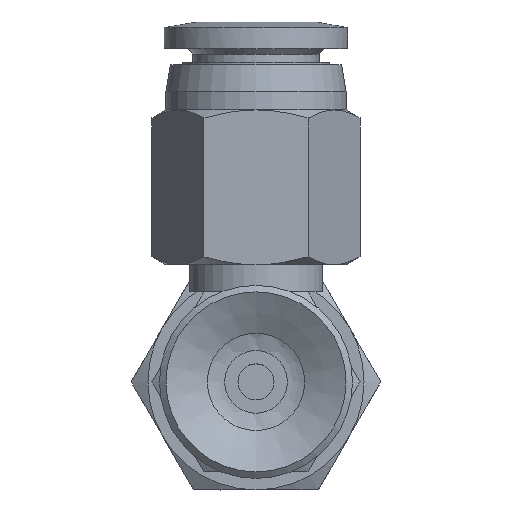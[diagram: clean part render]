
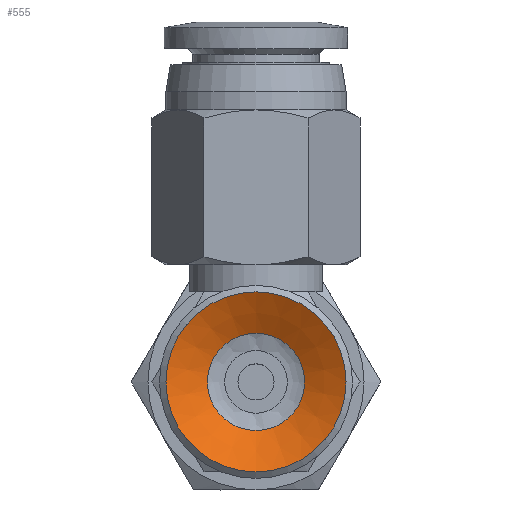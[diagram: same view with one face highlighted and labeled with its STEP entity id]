
A CAD part, front view. The second image highlights one B-rep face of the part: STEP entity #555.
In plain terms, the highlighted conical face has half-angle 61.39 degrees and reference radius 2.25 mm.
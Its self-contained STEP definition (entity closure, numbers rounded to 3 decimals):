
#555=ADVANCED_FACE('',(#863,#864),#865,.F.);
#863=FACE_BOUND('',#1256,.T.);
#864=FACE_OUTER_BOUND('',#1257,.T.);
#865=CONICAL_SURFACE('',#1258,2.25,1.071);
#1256=EDGE_LOOP('',(#2289));
#1257=EDGE_LOOP('',(#2290));
#1258=AXIS2_PLACEMENT_3D('',#2291,#2292,#2293);
#2289=ORIENTED_EDGE('',*,*,#2801,.T.);
#2290=ORIENTED_EDGE('',*,*,#2794,.T.);
#2291=CARTESIAN_POINT('',(0.0,1.5,0.0));
#2292=DIRECTION('',(-0.0,-1.0,0.));
#2293=DIRECTION('',(0.0,0.,-1.0));
#2794=EDGE_CURVE('',#3176,#3176,#3177,.T.);
#2801=EDGE_CURVE('',#3190,#3190,#3191,.T.);
#3176=VERTEX_POINT('',#4014);
#3177=CIRCLE('',#4015,5.);
#3190=VERTEX_POINT('',#4028);
#3191=CIRCLE('',#4029,2.698);
#4014=CARTESIAN_POINT('',(0.0,0.,-5.));
#4015=AXIS2_PLACEMENT_3D('',#4759,#4760,#4761);
#4028=CARTESIAN_POINT('',(0.0,1.256,-2.698));
#4029=AXIS2_PLACEMENT_3D('',#4780,#4781,#4782);
#4759=CARTESIAN_POINT('',(0.0,0.0,0.0));
#4760=DIRECTION('',(0.0,-1.0,0.));
#4761=DIRECTION('',(0.0,0.,-1.0));
#4780=CARTESIAN_POINT('',(0.0,1.256,0.0));
#4781=DIRECTION('',(0.0,1.0,0.));
#4782=DIRECTION('',(0.0,0.,-1.0));
